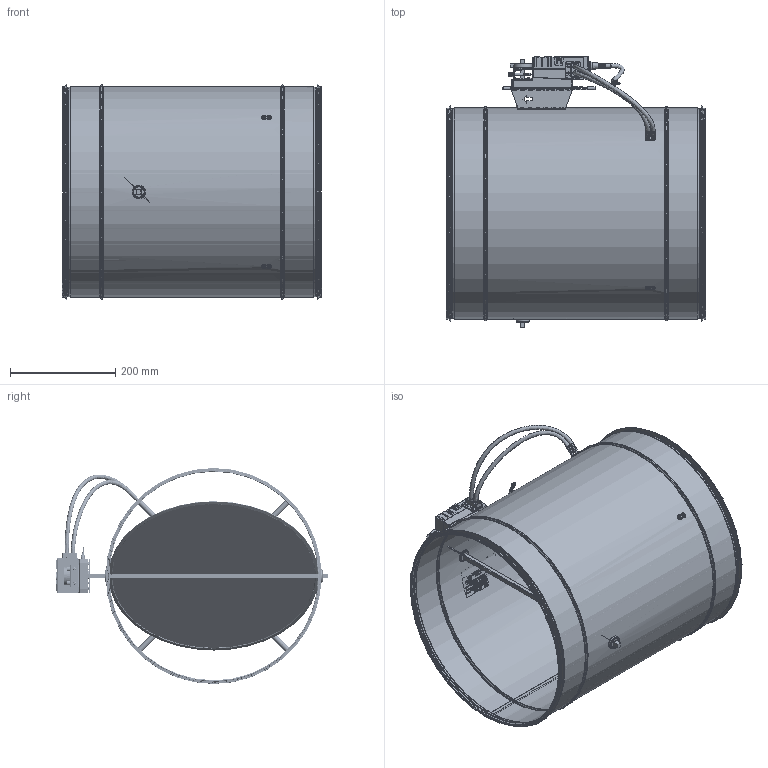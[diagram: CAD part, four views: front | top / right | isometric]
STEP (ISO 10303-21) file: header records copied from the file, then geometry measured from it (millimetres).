
FILE_DESCRIPTION (( 'STEP AP214' ), '1' );
FILE_NAME ('VAV-R400.STEP', '2025-03-06T12:07:22', ( '' ), ( '' ), 'SwSTEP 2.0', 'SolidWorks 2025', '' );
FILE_SCHEMA (( 'AUTOMOTIVE_DESIGN' ));
Length unit declared in the file: millimetre
Products named in the file (19): Abschlusskappexxx_x_x; Dichtung_innenxxx_x_x; DB_DN400; CROSS_WING400; BELIMO_MOTOR BRACKET_DN500-630; CROSS_PLUG; Dichtung_Vierkantxxx_x_x; LDE_DN400; Dichtungen; VSRV_Zapfen; BLECHSCHRAUBE; CROSS_PIECE; KLAPPE400; VAV-R400; Sicherungsscheibexxx_x_x; CROSS_DN400; Label VAVR400; Teil8^VAV-R400; LMV-D3-MP
Assembly tree (27 placements, depth 3):
  VAV-R400
    DB_DN400
    BELIMO_MOTOR BRACKET_DN500-630
    CROSS_DN400
      CROSS_PIECE
      CROSS_WING400  x4
      CROSS_PLUG  x3
      VSRV_Zapfen
    LDE_DN400  x2
    BLECHSCHRAUBE  x3
    LMV-D3-MP
    KLAPPE400
    Dichtungen  x2
      Abschlusskappexxx_x_x
      Dichtung_innenxxx_x_x
      Dichtung_Vierkantxxx_x_x
      Sicherungsscheibexxx_x_x
    Label VAVR400
    Teil8^VAV-R400
Bounding box: 491.74 x 514.5 x 409.74 mm (x, y, z)
Volume: 600979.7 mm3; surface area: 1874423.7 mm2
Topology: 29 solids, 47 shells, 7244 faces, 19442 edges, 12779 vertices
Faces by surface type: plane 3467, bspline 2461, cylinder 1058, torus 136, cone 92, sphere 30
Full cylindrical faces by diameter (mm): 1 x4, 1.911 x6, 2 x24, 2.5 x6, 3.318 x1, 3.5 x3, 4 x2, 5 x2, 5.5 x3, 6 x27, 7 x4, 7.5 x2, 8 x25, 11 x1, 16 x2, 20 x2, 21 x2, 21.422 x2, 23.5 x2, 25 x2, 396.74 x2, 399.14 x4, 409.74 x2
Entity records: 371759 total; most frequent: CARTESIAN_POINT 163776, ORIENTED_EDGE 36697, EDGE_CURVE 18370, DIRECTION 18125, VERTEX_POINT 12197, B_SPLINE_CURVE_WITH_KNOTS 11173, EDGE_LOOP 7736, FACE_OUTER_BOUND 7029
